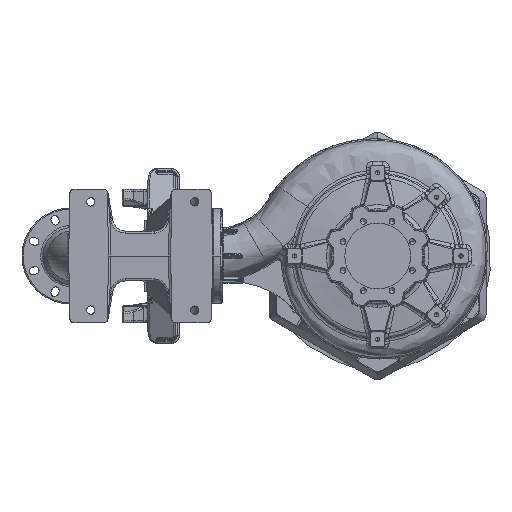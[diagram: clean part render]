
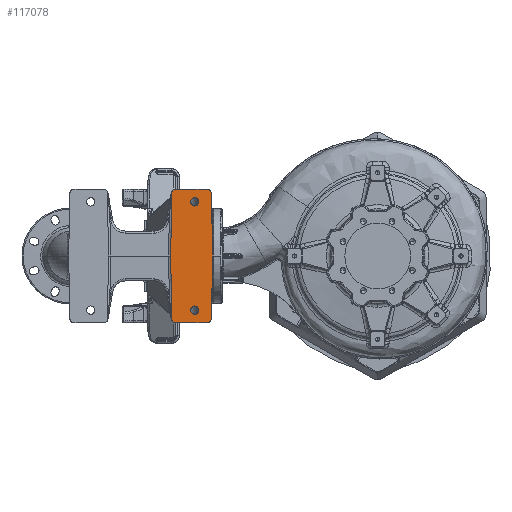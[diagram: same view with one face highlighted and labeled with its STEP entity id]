
A CAD part, front view. The second image highlights one B-rep face of the part: STEP entity #117078.
In plain terms, the highlighted planar face has unit normal (0, -1, 0).
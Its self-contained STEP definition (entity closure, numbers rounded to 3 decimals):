
#1829 = DIRECTION ( 'NONE',  ( 0., 0., -1. ) ) ;
#5253 = CIRCLE ( 'NONE', #94929, 10. ) ;
#5732 = CARTESIAN_POINT ( 'NONE',  ( -489.612, -572.5, -153.568 ) ) ;
#15697 = CARTESIAN_POINT ( 'NONE',  ( -399.5, -572.5, -160. ) ) ;
#15715 = AXIS2_PLACEMENT_3D ( 'NONE', #103273, #257528, #125508 ) ;
#16328 = DIRECTION ( 'NONE',  ( 0., 0., 1. ) ) ;
#18203 = CIRCLE ( 'NONE', #67018, 10. ) ;
#18608 = DIRECTION ( 'NONE',  ( 0., 0., -1. ) ) ;
#20712 = DIRECTION ( 'NONE',  ( -0.017, 0., -1. ) ) ;
#22015 = LINE ( 'NONE', #175207, #132575 ) ;
#27377 = CARTESIAN_POINT ( 'NONE',  ( -486.109, -572.5, -160. ) ) ;
#27909 = DIRECTION ( 'NONE',  ( 0., 0., 1. ) ) ;
#28443 = FACE_BOUND ( 'NONE', #43082, .T. ) ;
#33519 = LINE ( 'NONE', #173123, #151019 ) ;
#34422 = LINE ( 'NONE', #15697, #262270 ) ;
#34735 = VERTEX_POINT ( 'NONE', #126871 ) ;
#43082 = EDGE_LOOP ( 'NONE', ( #116315, #235490 ) ) ;
#44314 = EDGE_CURVE ( 'NONE', #55111, #227142, #45753, .T. ) ;
#45753 = CIRCLE ( 'NONE', #15715, 10. ) ;
#46073 = VERTEX_POINT ( 'NONE', #97732 ) ;
#48419 = EDGE_CURVE ( 'NONE', #267546, #278047, #34422, .T. ) ;
#51661 = ORIENTED_EDGE ( 'NONE', *, *, #82358, .T. ) ;
#52014 = DIRECTION ( 'NONE',  ( 0., -1., 0. ) ) ;
#52668 = ORIENTED_EDGE ( 'NONE', *, *, #230918, .T. ) ;
#55111 = VERTEX_POINT ( 'NONE', #198134 ) ;
#55871 = CARTESIAN_POINT ( 'NONE',  ( -399.328, -572.5, 150.175 ) ) ;
#59286 = CIRCLE ( 'NONE', #186910, 10. ) ;
#60371 = CARTESIAN_POINT ( 'NONE',  ( -494.611, -572.5, -153.656 ) ) ;
#62118 = CARTESIAN_POINT ( 'NONE',  ( -497.293, -572.5, 0. ) ) ;
#62729 = CIRCLE ( 'NONE', #86941, 5. ) ;
#66446 = VERTEX_POINT ( 'NONE', #84321 ) ;
#67018 = AXIS2_PLACEMENT_3D ( 'NONE', #266233, #134129, #1829 ) ;
#68140 = AXIS2_PLACEMENT_3D ( 'NONE', #282976, #150922, #18608 ) ;
#70571 = VERTEX_POINT ( 'NONE', #138046 ) ;
#72017 = LINE ( 'NONE', #172289, #130714 ) ;
#74104 = AXIS2_PLACEMENT_3D ( 'NONE', #184232, #52014, #206358 ) ;
#75251 = VERTEX_POINT ( 'NONE', #142904 ) ;
#77753 = DIRECTION ( 'NONE',  ( 0.017, 0., -1. ) ) ;
#81073 = AXIS2_PLACEMENT_3D ( 'NONE', #111129, #265395, #133305 ) ;
#82358 = EDGE_CURVE ( 'NONE', #248023, #136059, #236155, .T. ) ;
#84321 = CARTESIAN_POINT ( 'NONE',  ( -494.611, -572.5, 153.656 ) ) ;
#85068 = EDGE_CURVE ( 'NONE', #179465, #70571, #5253, .T. ) ;
#86941 = AXIS2_PLACEMENT_3D ( 'NONE', #5732, #160207, #27909 ) ;
#87961 = EDGE_CURVE ( 'NONE', #247927, #46073, #150500, .T. ) ;
#94929 = AXIS2_PLACEMENT_3D ( 'NONE', #251673, #119624, #273876 ) ;
#96134 = ORIENTED_EDGE ( 'NONE', *, *, #157013, .T. ) ;
#97732 = CARTESIAN_POINT ( 'NONE',  ( -493.114, -572.5, 157.137 ) ) ;
#98059 = ORIENTED_EDGE ( 'NONE', *, *, #175179, .T. ) ;
#99484 = CARTESIAN_POINT ( 'NONE',  ( -409.327, -572.5, 150. ) ) ;
#99758 = CARTESIAN_POINT ( 'NONE',  ( -493.114, -572.5, -157.137 ) ) ;
#103273 = CARTESIAN_POINT ( 'NONE',  ( -439.5, -572.5, 130. ) ) ;
#109039 = CARTESIAN_POINT ( 'NONE',  ( -399.5, -572.5, 160. ) ) ;
#111129 = CARTESIAN_POINT ( 'NONE',  ( -489.612, -572.5, 153.568 ) ) ;
#112017 = AXIS2_PLACEMENT_3D ( 'NONE', #262130, #130035, #284304 ) ;
#114616 = ORIENTED_EDGE ( 'NONE', *, *, #225923, .T. ) ;
#116315 = ORIENTED_EDGE ( 'NONE', *, *, #44314, .F. ) ;
#117078 = ADVANCED_FACE ( 'NONE', ( #204554, #263277, #28443 ), #129081, .F. ) ;
#118718 = DIRECTION ( 'NONE',  ( 0., -1., 0. ) ) ;
#119624 = DIRECTION ( 'NONE',  ( 0., -1., 0. ) ) ;
#121420 = CARTESIAN_POINT ( 'NONE',  ( -486.109, -572.5, 160. ) ) ;
#121658 = DIRECTION ( 'NONE',  ( 0., 0., 1. ) ) ;
#125508 = DIRECTION ( 'NONE',  ( 0., 0., -1. ) ) ;
#125975 = EDGE_CURVE ( 'NONE', #66446, #196630, #22015, .T. ) ;
#126871 = CARTESIAN_POINT ( 'NONE',  ( -409.327, -572.5, 160. ) ) ;
#128630 = EDGE_LOOP ( 'NONE', ( #196380, #96134, #98059, #162916, #52668, #195350, #51661, #163277, #159171, #222207, #114616, #197356 ) ) ;
#129081 = PLANE ( 'NONE',  #112017 ) ;
#130035 = DIRECTION ( 'NONE',  ( 0., 1., 0. ) ) ;
#130714 = VECTOR ( 'NONE', #77753, 1000. ) ;
#131187 = DIRECTION ( 'NONE',  ( -1., 0., 0. ) ) ;
#132069 = CIRCLE ( 'NONE', #81073, 5. ) ;
#132575 = VECTOR ( 'NONE', #20712, 1000. ) ;
#133305 = DIRECTION ( 'NONE',  ( 0., 0., 1. ) ) ;
#134129 = DIRECTION ( 'NONE',  ( 0., -1., 0. ) ) ;
#136059 = VERTEX_POINT ( 'NONE', #55871 ) ;
#136304 = AXIS2_PLACEMENT_3D ( 'NONE', #250770, #118718, #272972 ) ;
#138046 = CARTESIAN_POINT ( 'NONE',  ( -439.5, -572.5, -120. ) ) ;
#140313 = DIRECTION ( 'NONE',  ( -0.017, 0., 1. ) ) ;
#142904 = CARTESIAN_POINT ( 'NONE',  ( -399.328, -572.5, -150.175 ) ) ;
#148664 = DIRECTION ( 'NONE',  ( 0., -1., 0. ) ) ;
#150500 = CIRCLE ( 'NONE', #136304, 10. ) ;
#150922 = DIRECTION ( 'NONE',  ( 0., -1., 0. ) ) ;
#151019 = VECTOR ( 'NONE', #195237, 1000. ) ;
#155880 = CARTESIAN_POINT ( 'NONE',  ( -439.5, -572.5, -140. ) ) ;
#157013 = EDGE_CURVE ( 'NONE', #201373, #225530, #62729, .T. ) ;
#159171 = ORIENTED_EDGE ( 'NONE', *, *, #198947, .T. ) ;
#160207 = DIRECTION ( 'NONE',  ( 0., -1., 0. ) ) ;
#162916 = ORIENTED_EDGE ( 'NONE', *, *, #48419, .T. ) ;
#163277 = ORIENTED_EDGE ( 'NONE', *, *, #269413, .T. ) ;
#171568 = EDGE_CURVE ( 'NONE', #75251, #248023, #33519, .T. ) ;
#172289 = CARTESIAN_POINT ( 'NONE',  ( -494.5, -572.5, -160. ) ) ;
#173123 = CARTESIAN_POINT ( 'NONE',  ( -399.5, -572.5, -160. ) ) ;
#175179 = EDGE_CURVE ( 'NONE', #225530, #267546, #269233, .T. ) ;
#175207 = CARTESIAN_POINT ( 'NONE',  ( -494.5, -572.5, 160. ) ) ;
#178246 = CARTESIAN_POINT ( 'NONE',  ( -409.327, -572.5, -160. ) ) ;
#179465 = VERTEX_POINT ( 'NONE', #155880 ) ;
#184232 = CARTESIAN_POINT ( 'NONE',  ( -486.109, -572.5, -150. ) ) ;
#186910 = AXIS2_PLACEMENT_3D ( 'NONE', #99484, #253703, #121658 ) ;
#191515 = VECTOR ( 'NONE', #131187, 1000. ) ;
#195237 = DIRECTION ( 'NONE',  ( 0.017, 0., 1. ) ) ;
#195350 = ORIENTED_EDGE ( 'NONE', *, *, #171568, .T. ) ;
#196380 = ORIENTED_EDGE ( 'NONE', *, *, #275759, .T. ) ;
#196630 = VERTEX_POINT ( 'NONE', #62118 ) ;
#197356 = ORIENTED_EDGE ( 'NONE', *, *, #125975, .T. ) ;
#198134 = CARTESIAN_POINT ( 'NONE',  ( -439.5, -572.5, 120. ) ) ;
#198287 = VECTOR ( 'NONE', #140313, 1000. ) ;
#198947 = EDGE_CURVE ( 'NONE', #34735, #247927, #250126, .T. ) ;
#201373 = VERTEX_POINT ( 'NONE', #60371 ) ;
#204554 = FACE_OUTER_BOUND ( 'NONE', #128630, .T. ) ;
#206358 = DIRECTION ( 'NONE',  ( 0., 0., 1. ) ) ;
#212437 = CARTESIAN_POINT ( 'NONE',  ( -396.707, -572.5, 0. ) ) ;
#215724 = CARTESIAN_POINT ( 'NONE',  ( -396.707, -572.5, 0. ) ) ;
#220933 = ORIENTED_EDGE ( 'NONE', *, *, #85068, .F. ) ;
#222207 = ORIENTED_EDGE ( 'NONE', *, *, #87961, .T. ) ;
#225530 = VERTEX_POINT ( 'NONE', #99758 ) ;
#225923 = EDGE_CURVE ( 'NONE', #46073, #66446, #132069, .T. ) ;
#227142 = VERTEX_POINT ( 'NONE', #246084 ) ;
#230918 = EDGE_CURVE ( 'NONE', #278047, #75251, #284775, .T. ) ;
#235490 = ORIENTED_EDGE ( 'NONE', *, *, #267599, .F. ) ;
#236155 = LINE ( 'NONE', #212437, #198287 ) ;
#236573 = DIRECTION ( 'NONE',  ( 1., 0., 0. ) ) ;
#243246 = AXIS2_PLACEMENT_3D ( 'NONE', #280707, #148664, #16328 ) ;
#246084 = CARTESIAN_POINT ( 'NONE',  ( -439.5, -572.5, 140. ) ) ;
#247927 = VERTEX_POINT ( 'NONE', #121420 ) ;
#248023 = VERTEX_POINT ( 'NONE', #215724 ) ;
#248751 = EDGE_CURVE ( 'NONE', #70571, #179465, #18203, .T. ) ;
#250126 = LINE ( 'NONE', #109039, #191515 ) ;
#250770 = CARTESIAN_POINT ( 'NONE',  ( -486.109, -572.5, 150. ) ) ;
#251673 = CARTESIAN_POINT ( 'NONE',  ( -439.5, -572.5, -130. ) ) ;
#253703 = DIRECTION ( 'NONE',  ( 0., -1., 0. ) ) ;
#255297 = EDGE_LOOP ( 'NONE', ( #220933, #272222 ) ) ;
#255607 = CIRCLE ( 'NONE', #68140, 10. ) ;
#257528 = DIRECTION ( 'NONE',  ( 0., -1., 0. ) ) ;
#262130 = CARTESIAN_POINT ( 'NONE',  ( -500.086, -572.5, -160. ) ) ;
#262270 = VECTOR ( 'NONE', #236573, 1000. ) ;
#263277 = FACE_BOUND ( 'NONE', #255297, .T. ) ;
#265395 = DIRECTION ( 'NONE',  ( 0., -1., 0. ) ) ;
#266233 = CARTESIAN_POINT ( 'NONE',  ( -439.5, -572.5, -130. ) ) ;
#267546 = VERTEX_POINT ( 'NONE', #27377 ) ;
#267599 = EDGE_CURVE ( 'NONE', #227142, #55111, #255607, .T. ) ;
#269233 = CIRCLE ( 'NONE', #74104, 10. ) ;
#269413 = EDGE_CURVE ( 'NONE', #136059, #34735, #59286, .T. ) ;
#272222 = ORIENTED_EDGE ( 'NONE', *, *, #248751, .F. ) ;
#272972 = DIRECTION ( 'NONE',  ( 0., 0., 1. ) ) ;
#273876 = DIRECTION ( 'NONE',  ( 0., 0., -1. ) ) ;
#275759 = EDGE_CURVE ( 'NONE', #196630, #201373, #72017, .T. ) ;
#278047 = VERTEX_POINT ( 'NONE', #178246 ) ;
#280707 = CARTESIAN_POINT ( 'NONE',  ( -409.327, -572.5, -150. ) ) ;
#282976 = CARTESIAN_POINT ( 'NONE',  ( -439.5, -572.5, 130. ) ) ;
#284304 = DIRECTION ( 'NONE',  ( 0., 0., 1. ) ) ;
#284775 = CIRCLE ( 'NONE', #243246, 10. ) ;
